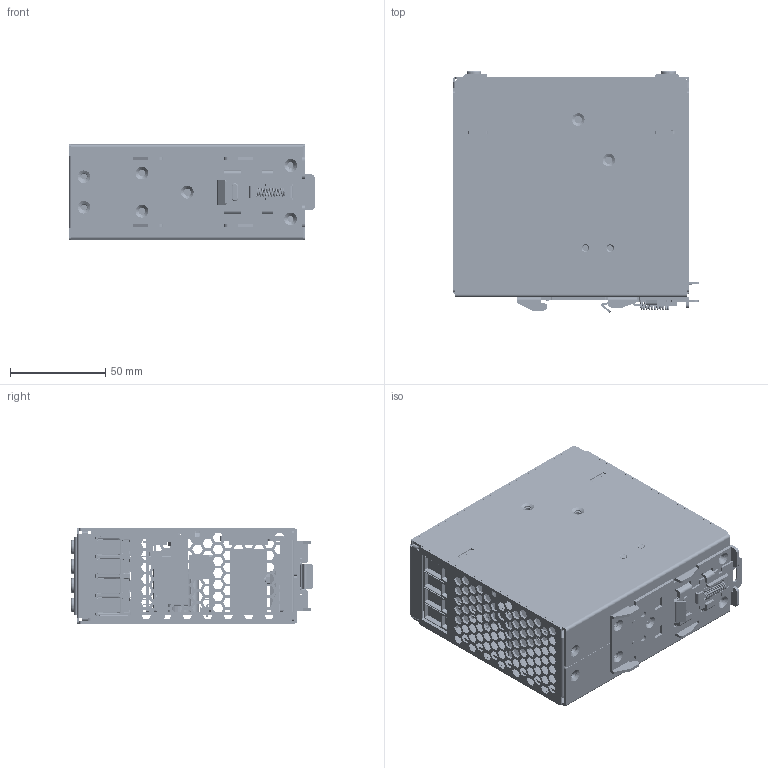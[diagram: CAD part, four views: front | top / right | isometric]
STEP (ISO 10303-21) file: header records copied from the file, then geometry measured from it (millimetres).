
FILE_DESCRIPTION((''),'2;1');
FILE_NAME('DRU-24V40AMA_ASM','2020-12-29T',('ROCK.WEN'),(''),'PRO/ENGINEER BY PARAMETRIC TECHNOLOGY CORPORATION, 2015240','PRO/ENGINEER BY PARAMETRIC TECHNOLOGY CORPORATION, 2015240','');
FILE_SCHEMA(('CONFIG_CONTROL_DESIGN','SHAPE_APPEARANCE_LAYERS_GROUPS'));
Products named in the file (95): DRU-24V40AMA_PWB; DINKLE_0177-3108; HSK6_40A; PIN; Q701; SCREW_11; NUT; PIN_L_1; HSK6_40A_ASM; HS1; HS1_1; HS1_1_ASM; PRT0003; TER-F000-00H1-1-SOLID5; BA-F000-000B-02-1-SOLID1; TER-F000-00H1-1-SOLID2; TER-F000-00H1-1-SOLID1; TER-F000-00H1-1-SOLID4; TER-F000-00H1-1-SOLID3; RO-S0DR-0000-01-1-SOLID1; BC-T000-00H0-01_H_-2-SOLID1; FDR-10H1_ASM; Y900A-R7J-T1-12-2_54-55__ASM; PRT0004; PRT0005; PRT0006; CO-T000-00H0-01-1-SOLID1; PRT0007; PRT0008; PRT0009; PRT0010; PRT0011; PRT0012; TDM-04H1_ASM; Y900A-R3CJ1-T1-04M-55_ASM; DRU-24V40AMA_PWB_ASM; EDC-0030; HS203_40A; NMOS_242002881263; SCREW_8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
Assembly tree (236 placements, depth 6):
  DRU-24V40AMA_ASM
    PWB_40A_ASM
      DRU-24V40AMA_PWB_ASM
        DRU-24V40AMA_PWB
        DINKLE_0177-3108
        HSK6_40A_ASM
          HSK6_40A
          PIN
          Q701
          SCREW_11
          NUT
          PIN_L_1
        HS1_1_ASM
          HS1
          PIN  x2
          HS1_1
        Y900A-R7J-T1-12-2_54-55__ASM
          FDR-10H1_ASM
            PRT0003
            TER-F000-00H1-1-SOLID5
            BA-F000-000B-02-1-SOLID1
            TER-F000-00H1-1-SOLID2
            TER-F000-00H1-1-SOLID1
            TER-F000-00H1-1-SOLID4
            TER-F000-00H1-1-SOLID3
            RO-S0DR-0000-01-1-SOLID1
            BC-T000-00H0-01_H_-2-SOLID1
        Y900A-R3CJ1-T1-04M-55_ASM
          TDM-04H1_ASM
            PRT0004
            PRT0005
            PRT0006
            CO-T000-00H0-01-1-SOLID1
            PRT0007
            PRT0008
            PRT0009
            PRT0010
            PRT0011
            PRT0012
      EDC-0030_ASM
        EDC-0030
        HS203_40A_ASM
          HS203_40A
          NMOS_242002881263  x4
          PIN
          SCREW_8  x4
          NUT  x4
        HS202_40A_ASM
          HS202_40A
          PIN
          PIN_L
          NMOS_242002881263  x4
          SCREW_8  x4
          NUT  x4
        MH140016M102A301_A20130507_ASM
          MH140016M102A301_ASM
            _S__18  x2
            _S__10  x2
            _S__19  x2
          _S__14
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Bounding box: 129.02 x 126.71 x 50 mm (x, y, z)
Volume: 225109.4 mm3; surface area: 284499.2 mm2
Topology: 267 solids, 267 shells, 13555 faces, 35834 edges, 23041 vertices
Faces by surface type: plane 9521, cylinder 3180, extrusion 302, torus 299, cone 171, bspline 74, sphere 8
Entity records: 295614 total; most frequent: CARTESIAN_POINT 63869, ORIENTED_EDGE 43556, DIRECTION 41635, EDGE_CURVE 21778, VECTOR 16627, LINE 16325, VERTEX_POINT 14137, AXIS2_PLACEMENT_3D 12504
